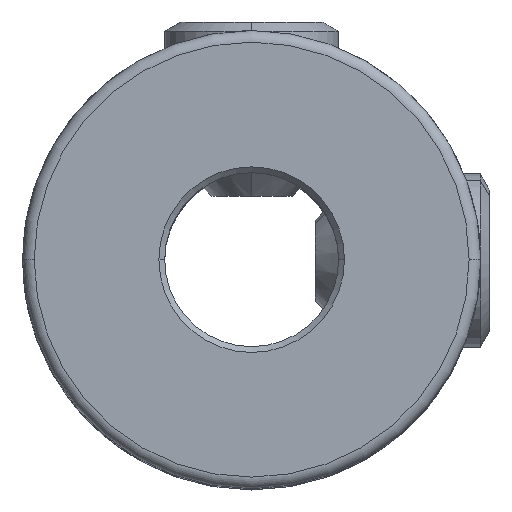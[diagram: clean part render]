
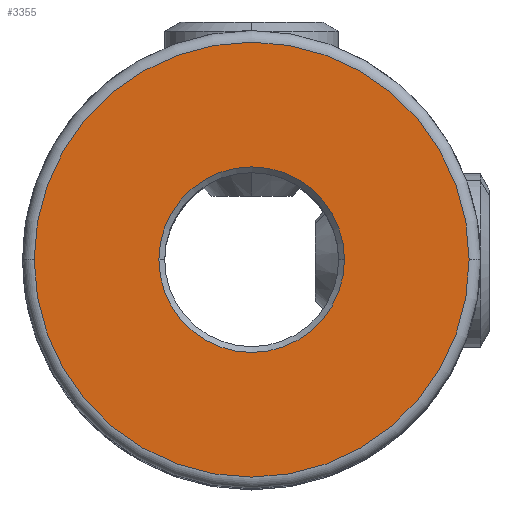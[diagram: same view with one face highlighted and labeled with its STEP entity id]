
A CAD part, top view. The second image highlights one B-rep face of the part: STEP entity #3355.
In plain terms, the highlighted planar face has unit normal (0, 0, 1).
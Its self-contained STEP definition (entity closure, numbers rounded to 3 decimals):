
#241 = VERTEX_POINT ( 'NONE', #4754 ) ;
#282 = DIRECTION ( 'NONE',  ( 0., 0., -1. ) ) ;
#335 = CARTESIAN_POINT ( 'NONE',  ( -250.92, 28.449, 6.3 ) ) ;
#352 = DIRECTION ( 'NONE',  ( 0., 0., 1. ) ) ;
#493 = VERTEX_POINT ( 'NONE', #1767 ) ;
#563 = VERTEX_POINT ( 'NONE', #335 ) ;
#642 = EDGE_LOOP ( 'NONE', ( #3025, #1981 ) ) ;
#949 = EDGE_CURVE ( 'NONE', #563, #1255, #3110, .T. ) ;
#1092 = ORIENTED_EDGE ( 'NONE', *, *, #3924, .T. ) ;
#1151 = CIRCLE ( 'NONE', #3946, 3.75 ) ;
#1255 = VERTEX_POINT ( 'NONE', #3251 ) ;
#1289 = DIRECTION ( 'NONE',  ( 0., 0., -1. ) ) ;
#1713 = EDGE_CURVE ( 'NONE', #493, #241, #4786, .T. ) ;
#1767 = CARTESIAN_POINT ( 'NONE',  ( -248.77, 28.449, 6.3 ) ) ;
#1868 = FACE_BOUND ( 'NONE', #642, .T. ) ;
#1897 = ORIENTED_EDGE ( 'NONE', *, *, #1713, .T. ) ;
#1948 = EDGE_CURVE ( 'NONE', #1255, #563, #1958, .T. ) ;
#1958 = CIRCLE ( 'NONE', #4578, 1.6 ) ;
#1981 = ORIENTED_EDGE ( 'NONE', *, *, #1948, .T. ) ;
#2019 = DIRECTION ( 'NONE',  ( 0., 0., 1. ) ) ;
#2023 = EDGE_LOOP ( 'NONE', ( #1897, #1092 ) ) ;
#2243 = CARTESIAN_POINT ( 'NONE',  ( -252.52, 28.449, 6.3 ) ) ;
#2470 = DIRECTION ( 'NONE',  ( 1., 0., 0. ) ) ;
#2645 = DIRECTION ( 'NONE',  ( 1., 0., 0. ) ) ;
#2696 = CARTESIAN_POINT ( 'NONE',  ( -252.52, 28.449, 6.3 ) ) ;
#3025 = ORIENTED_EDGE ( 'NONE', *, *, #949, .T. ) ;
#3110 = CIRCLE ( 'NONE', #4214, 1.6 ) ;
#3251 = CARTESIAN_POINT ( 'NONE',  ( -254.12, 28.449, 6.3 ) ) ;
#3355 = ADVANCED_FACE ( 'NONE', ( #4152, #1868 ), #4686, .T. ) ;
#3394 = DIRECTION ( 'NONE',  ( 1., 0., 0. ) ) ;
#3529 = AXIS2_PLACEMENT_3D ( 'NONE', #3982, #2019, #4020 ) ;
#3604 = CARTESIAN_POINT ( 'NONE',  ( -252.52, 28.449, 6.3 ) ) ;
#3791 = DIRECTION ( 'NONE',  ( 0., 0., 1. ) ) ;
#3908 = DIRECTION ( 'NONE',  ( 1., 0., 0. ) ) ;
#3924 = EDGE_CURVE ( 'NONE', #241, #493, #1151, .T. ) ;
#3944 = AXIS2_PLACEMENT_3D ( 'NONE', #2696, #352, #3908 ) ;
#3946 = AXIS2_PLACEMENT_3D ( 'NONE', #4633, #3791, #2645 ) ;
#3982 = CARTESIAN_POINT ( 'NONE',  ( -252.52, 28.449, 6.3 ) ) ;
#4020 = DIRECTION ( 'NONE',  ( 1., 0., 0. ) ) ;
#4152 = FACE_OUTER_BOUND ( 'NONE', #2023, .T. ) ;
#4214 = AXIS2_PLACEMENT_3D ( 'NONE', #3604, #1289, #2470 ) ;
#4578 = AXIS2_PLACEMENT_3D ( 'NONE', #2243, #282, #3394 ) ;
#4633 = CARTESIAN_POINT ( 'NONE',  ( -252.52, 28.449, 6.3 ) ) ;
#4686 = PLANE ( 'NONE',  #3944 ) ;
#4754 = CARTESIAN_POINT ( 'NONE',  ( -256.27, 28.449, 6.3 ) ) ;
#4786 = CIRCLE ( 'NONE', #3529, 3.75 ) ;
